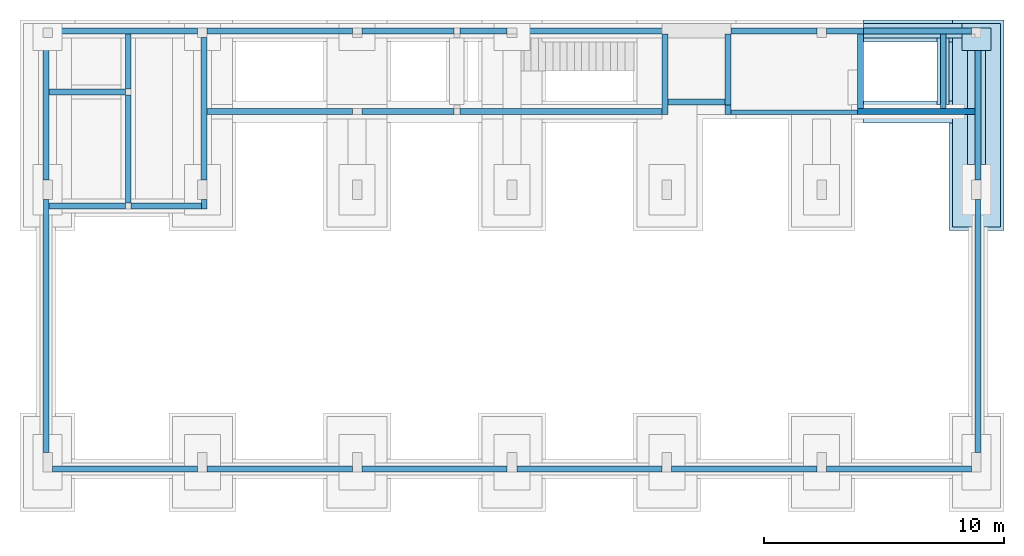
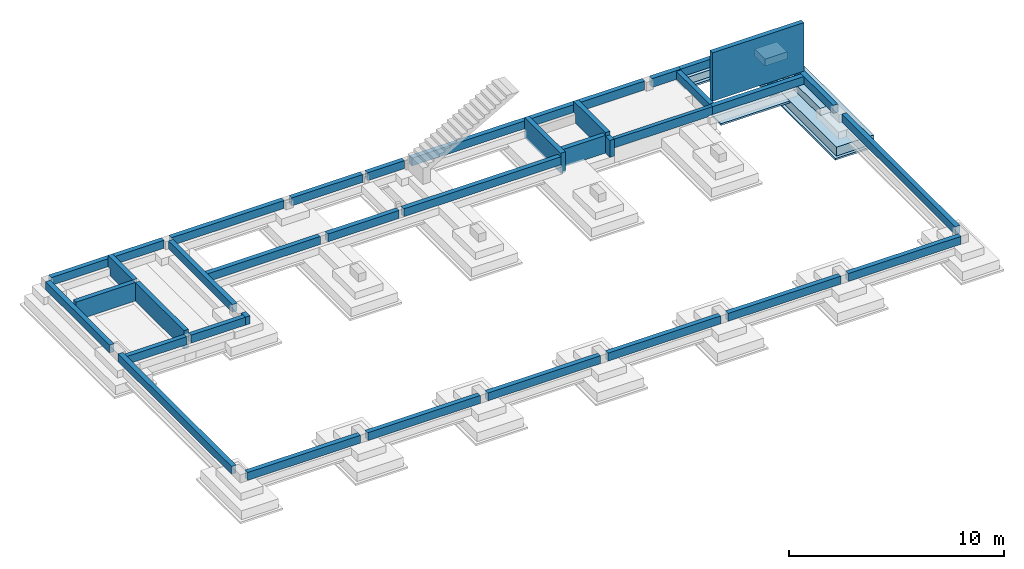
# One storey, part 4 of 6: 36 walls, 8 slabs.
"""IFC2X3 building model written with IfcOpenShell, lengths in centimetres."""

from ifc_helpers import new_model, entity, si_unit, converted_unit, derived_unit, direction, frame, frame_2d, origin, origin_2d_with_axis, place, context, subcontext, project, spatial, polyline, rectangle, extrude, clip, bounded_halfspace, material, layer, layer_set, layer_usage, type_object, element, save


model = new_model("IFC2X3")

# Units and contexts
model_context = context("Model", 3, precision=0.001, world=origin(), true_north=direction((6.12303176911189e-17, 1.0)))
body_context = subcontext(model_context, "Body", "Model", "MODEL_VIEW")
ifc_project = project(units=[si_unit("LENGTHUNIT", "METRE", prefix="CENTI"), si_unit("AREAUNIT", "SQUARE_METRE"), si_unit("VOLUMEUNIT", "CUBIC_METRE"), converted_unit("PLANEANGLEUNIT", "DEGREE", entity("IfcRatioMeasure", 0.0174532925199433), si_unit("PLANEANGLEUNIT", "RADIAN"), dimensions=[0, 0, 0, 0, 0, 0, 0]), si_unit("MASSUNIT", "GRAM", prefix="KILO"), derived_unit("MASSDENSITYUNIT", [(si_unit("MASSUNIT", "GRAM", prefix="KILO"), 1), (si_unit("LENGTHUNIT", "METRE"), -3)]), derived_unit("MOMENTOFINERTIAUNIT", [(si_unit("LENGTHUNIT", "METRE"), 4)]), si_unit("TIMEUNIT", "SECOND"), si_unit("FREQUENCYUNIT", "HERTZ"), si_unit("THERMODYNAMICTEMPERATUREUNIT", "DEGREE_CELSIUS"), derived_unit("THERMALTRANSMITTANCEUNIT", [(si_unit("MASSUNIT", "GRAM", prefix="KILO"), 1), (si_unit("THERMODYNAMICTEMPERATUREUNIT", "KELVIN"), -1), (si_unit("TIMEUNIT", "SECOND"), -3)]), derived_unit("VOLUMETRICFLOWRATEUNIT", [(si_unit("LENGTHUNIT", "METRE"), 3), (si_unit("TIMEUNIT", "SECOND"), -1)]), si_unit("ELECTRICCURRENTUNIT", "AMPERE"), si_unit("ELECTRICVOLTAGEUNIT", "VOLT"), si_unit("POWERUNIT", "WATT"), si_unit("FORCEUNIT", "NEWTON", prefix="KILO"), si_unit("ILLUMINANCEUNIT", "LUX"), si_unit("LUMINOUSFLUXUNIT", "LUMEN"), si_unit("LUMINOUSINTENSITYUNIT", "CANDELA"), derived_unit("USERDEFINED", [(si_unit("MASSUNIT", "GRAM", prefix="KILO"), -1), (si_unit("LENGTHUNIT", "METRE"), -2), (si_unit("TIMEUNIT", "SECOND"), 3), (si_unit("LUMINOUSFLUXUNIT", "LUMEN"), 1)]), derived_unit("LINEARVELOCITYUNIT", [(si_unit("LENGTHUNIT", "METRE"), 1), (si_unit("TIMEUNIT", "SECOND"), -1)]), si_unit("PRESSUREUNIT", "PASCAL"), derived_unit("USERDEFINED", [(si_unit("LENGTHUNIT", "METRE"), -2), (si_unit("MASSUNIT", "GRAM", prefix="KILO"), 1), (si_unit("TIMEUNIT", "SECOND"), -2)]), derived_unit("LINEARFORCEUNIT", [(si_unit("MASSUNIT", "GRAM", prefix="KILO"), 1), (si_unit("LENGTHUNIT", "METRE"), 1), (si_unit("TIMEUNIT", "SECOND"), -2), (si_unit("LENGTHUNIT", "METRE"), -1)]), derived_unit("PLANARFORCEUNIT", [(si_unit("MASSUNIT", "GRAM", prefix="KILO"), 1), (si_unit("LENGTHUNIT", "METRE"), 1), (si_unit("TIMEUNIT", "SECOND"), -2), (si_unit("LENGTHUNIT", "METRE"), -2)])], contexts=[model_context])

# Site, building, storey
site_placement = place(None, origin())
site = spatial("IfcSite", under=ifc_project, at=site_placement, Name="Default", CompositionType="ELEMENT")
building_placement = place(site_placement, origin())
building = spatial("IfcBuilding", under=site, at=building_placement, CompositionType="ELEMENT")
storey_placement = place(building_placement, frame((0.0, 0.0, -115.0)))
storey = spatial("IfcBuildingStorey", under=building, at=storey_placement, Name="Poziom Fundament -1,15", CompositionType="ELEMENT", Elevation=-115.0)

# Slabs
ifc_material_1 = material(Name="_Beton, C25/30")
ifc_layer_1 = layer(ifc_material_1, 50.0)
ifc_layer_set_1 = layer_set([ifc_layer_1], Name="Strop:SF 200 x 847,5 x 50 cm")
ifc_layer_usage_1 = layer_usage(ifc_layer_set_1, "AXIS3", "POSITIVE", 0.0)
slab_type_1 = type_object("IfcSlabType", Name="Strop:SF 200 x 847,5 x 50 cm", PredefinedType="FLOOR", material=ifc_layer_set_1)
slab_1_placement = place(storey_placement, origin())
element("IfcSlab", 1, at=slab_1_placement, inside=storey, type_object=slab_type_1, material=ifc_layer_usage_1, Name="Strop:SF 200 x 847,5 x 50 cm", ObjectType="Strop:SF 200 x 847,5 x 50 cm", PredefinedType="FLOOR", context=body_context, shape_type="SweptSolid", body=[
    extrude(rectangle(XDim=847.500000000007, YDim=199.999999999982, at=origin_2d_with_axis()), frame((955.734885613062, 1698.8774502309, 0.0), z_axis=(0.0, 0.0, -1.0), x_axis=(0.0, 1.0, 0.0)), (0.0, 0.0, 1.0), 50.0),
])
ifc_layer_2 = layer(ifc_material_1, 40.0)
ifc_layer_set_2 = layer_set([ifc_layer_2], Name="Strop:Ława fundamentowa gr. 40cm")
ifc_layer_usage_2 = layer_usage(ifc_layer_set_2, "AXIS3", "POSITIVE", 0.0)
slab_type_2 = type_object("IfcSlabType", Name="Strop:Ława fundamentowa gr. 40cm", PredefinedType="FLOOR", material=ifc_layer_set_2)
slab_2_placement = place(storey_placement, origin())
element("IfcSlab", 2, at=slab_2_placement, inside=storey, type_object=slab_type_2, material=ifc_layer_usage_2, Name="Strop:Ława fundamentowa gr. 40cm", ObjectType="Strop:Ława fundamentowa gr. 40cm", PredefinedType="FLOOR", context=body_context, shape_type="SweptSolid", body=[
    extrude(rectangle(XDim=475.00335249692, YDim=74.9987288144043, at=origin_2d_with_axis()), frame((955.734519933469, 1772.6257552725, 40.0), z_axis=(0.0, 0.0, -1.0), x_axis=(0.0, 1.0, 0.0)), (0.0, 0.0, 1.0), 40.0),
])
ifc_layer_3 = layer(ifc_material_1, 40.0)
ifc_layer_set_3 = layer_set([ifc_layer_3], Name="Strop:SF 112,5 x 120 x 40cm")
ifc_layer_usage_3 = layer_usage(ifc_layer_set_3, "AXIS3", "POSITIVE", 0.0)
slab_type_3 = type_object("IfcSlabType", Name="Strop:SF 112,5 x 120 x 40cm", PredefinedType="FLOOR", material=ifc_layer_set_3)
slab_3_placement = place(storey_placement, origin())
element("IfcSlab", 3, at=slab_3_placement, inside=storey, type_object=slab_type_3, material=ifc_layer_usage_3, Name="Strop:SF 112,5 x 120 x 40cm", ObjectType="Strop:SF 112,5 x 120 x 40cm", PredefinedType="FLOOR", context=body_context, shape_type="SweptSolid", body=[
    extrude(rectangle(XDim=95.0000187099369, YDim=119.998441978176, at=origin_2d_with_axis()), frame((955.734644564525, 2057.62744087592, 40.0), z_axis=(0.0, 0.0, -1.0), x_axis=(0.0, 1.0, 0.0)), (0.0, 0.0, 1.0), 40.0),
])
ifc_layer_usage_4 = layer_usage(ifc_layer_set_2, "AXIS3", "POSITIVE", 0.0)
slab_type_4 = type_object("IfcSlabType", Name="Strop:Ława fundamentowa gr. 40cm", PredefinedType="FLOOR", material=ifc_layer_set_2)
slab_4_placement = place(storey_placement, origin())
element("IfcSlab", 4, at=slab_4_placement, inside=storey, type_object=slab_type_4, material=ifc_layer_usage_4, Name="Strop:Ława fundamentowa gr. 40cm", ObjectType="Strop:Ława fundamentowa gr. 40cm", PredefinedType="FLOOR", context=body_context, shape_type="SweptSolid", body=[
    extrude(rectangle(XDim=60.0000206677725, YDim=410.0, at=origin_2d_with_axis()), frame((690.735423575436, 2092.62743989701, 40.0), z_axis=(0.0, 0.0, -1.0), x_axis=(0.0, 1.0, 0.0)), (0.0, 0.0, 1.0), 40.0),
])
ifc_layer_usage_5 = layer_usage(ifc_layer_set_2, "AXIS3", "POSITIVE", 0.0)
slab_type_5 = type_object("IfcSlabType", Name="Strop:Ława fundamentowa gr. 40cm", PredefinedType="FLOOR", material=ifc_layer_set_2)
slab_5_placement = place(storey_placement, origin())
element("IfcSlab", 5, at=slab_5_placement, inside=storey, type_object=slab_type_5, material=ifc_layer_usage_5, Name="Strop:Ława fundamentowa gr. 40cm", ObjectType="Strop:Ława fundamentowa gr. 40cm", PredefinedType="FLOOR", context=body_context, shape_type="SweptSolid", body=[
    extrude(rectangle(XDim=276.999976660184, YDim=50.0000000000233, at=origin_2d_with_axis()), frame((817.235016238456, 1924.12744123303, 40.0), z_axis=(0.0, 0.0, -1.0), x_axis=(0.0, 1.0, 0.0)), (0.0, 0.0, 1.0), 40.0),
])
ifc_material_2 = material(Name="Beton zacierany")
ifc_layer_4 = layer(ifc_material_2, 10.0)
ifc_layer_set_4 = layer_set([ifc_layer_4], Name="Strop:Chudy beton gr. 10cm")
ifc_layer_usage_6 = layer_usage(ifc_layer_set_4, "AXIS3", "POSITIVE", 0.0)
slab_type_6 = type_object("IfcSlabType", Name="Strop:Chudy beton gr. 10cm", PredefinedType="FLOOR", material=ifc_layer_set_4)
slab_6_placement = place(storey_placement, origin())
element("IfcSlab", 6, at=slab_6_placement, inside=storey, type_object=slab_type_6, material=ifc_layer_usage_6, Name="Strop:Chudy beton gr. 10cm", ObjectType="Strop:Chudy beton gr. 10cm", PredefinedType="FLOOR", context=body_context, shape_type="SweptSolid", body=[
    extrude(rectangle(XDim=877.500000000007, YDim=229.999999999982, at=origin_2d_with_axis()), frame((955.734885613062, 1698.8774502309, -50.0), z_axis=(0.0, 0.0, -1.0), x_axis=(0.0, 1.0, 0.0)), (0.0, 0.0, 1.0), 10.0),
])
ifc_layer_usage_7 = layer_usage(ifc_layer_set_4, "AXIS3", "POSITIVE", 0.0)
slab_type_7 = type_object("IfcSlabType", Name="Strop:Chudy beton gr. 10cm", PredefinedType="FLOOR", material=ifc_layer_set_4)
slab_7_placement = place(storey_placement, origin())
element("IfcSlab", 7, at=slab_7_placement, inside=storey, type_object=slab_type_7, material=ifc_layer_usage_7, Name="Strop:Chudy beton gr. 10cm", ObjectType="Strop:Chudy beton gr. 10cm", PredefinedType="FLOOR", context=body_context, shape_type="SweptSolid", body=[
    extrude(rectangle(XDim=92.4999981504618, YDim=369.999462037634, at=frame_2d((4.33431068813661e-13, -1.13686837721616e-13), x_axis=(1.0, 0.0))), frame((670.735154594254, 2091.37745115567, 0.0), z_axis=(0.0, 0.0, -1.0), x_axis=(0.0, 1.0, 0.0)), (0.0, 0.0, 1.0), 10.0),
])
ifc_layer_usage_8 = layer_usage(ifc_layer_set_4, "AXIS3", "POSITIVE", 0.0)
slab_type_8 = type_object("IfcSlabType", Name="Strop:Chudy beton gr. 10cm", PredefinedType="FLOOR", material=ifc_layer_set_4)
slab_8_placement = place(storey_placement, origin())
element("IfcSlab", 8, at=slab_8_placement, inside=storey, type_object=slab_type_8, material=ifc_layer_usage_8, Name="Strop:Chudy beton gr. 10cm", ObjectType="Strop:Chudy beton gr. 10cm", PredefinedType="FLOOR", context=body_context, shape_type="SweptSolid", body=[
    extrude(rectangle(XDim=92.4999981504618, YDim=369.999462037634, at=frame_2d((4.33431068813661e-13, -1.13686837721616e-13), x_axis=(1.0, 0.0))), frame((670.735154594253, 1754.37745548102, 0.0), z_axis=(0.0, 0.0, -1.0), x_axis=(0.0, 1.0, 0.0)), (0.0, 0.0, 1.0), 10.0),
])

# Walls
ifc_layer_5 = layer(ifc_material_1, 25.0)
ifc_layer_set_5 = layer_set([ifc_layer_5], Name="Ściana podstawowa:Ściana fundamentowa gr. 25cm")
ifc_layer_usage_9 = layer_usage(ifc_layer_set_5, "AXIS2", "NEGATIVE", 12.5)
wall_type_1 = type_object("IfcWallType", Name="Ściana podstawowa:Ściana fundamentowa gr. 25cm", PredefinedType="STANDARD", material=ifc_layer_set_5)
wall_1_placement = place(storey_placement, frame((963.235011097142, 2065.12743152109, 40.0), z_axis=(0.0, 0.0, 1.0), x_axis=(0.0, -1.0, 0.0)))
element("IfcWallStandardCase", 9, at=wall_1_placement, inside=storey, type_object=wall_type_1, material=ifc_layer_usage_9, Name="Ściana podstawowa:Ściana fundamentowa gr. 25cm", ObjectType="Ściana podstawowa:Ściana fundamentowa gr. 25cm", context=body_context, shape_type="SweptSolid", body=[
    extrude(rectangle(XDim=594.999999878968, YDim=25.0000000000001, at=frame_2d((297.499999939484, 5.41788836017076e-14), x_axis=(-1.0, 0.0))), origin(), (0.0, 0.0, 1.0), 45.0),
])
ifc_layer_usage_10 = layer_usage(ifc_layer_set_5, "AXIS2", "NEGATIVE", 12.5)
wall_2_placement = place(storey_placement, frame((935.735011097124, 2092.62745023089, 40.0), z_axis=(0.0, 0.0, 1.0), x_axis=(-1.0, 0.0, 0.0)))
element("IfcWallStandardCase", 10, at=wall_2_placement, inside=storey, type_object=wall_type_1, material=ifc_layer_usage_10, Name="Ściana podstawowa:Ściana fundamentowa gr. 25cm", ObjectType="Ściana podstawowa:Ściana fundamentowa gr. 25cm", context=body_context, shape_type="SweptSolid", body=[
    extrude(rectangle(XDim=449.999587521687, YDim=25.0000000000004, at=frame_2d((224.999793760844, 0.0), x_axis=(-1.0, 0.0))), origin(), (0.0, 0.0, 1.0), 45.0),
])
ifc_layer_usage_11 = layer_usage(ifc_layer_set_5, "AXIS2", "NEGATIVE", 12.5)
wall_3_placement = place(storey_placement, frame((-2289.26498896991, 267.627499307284, 40.0), z_axis=(0.0, 0.0, 1.0), x_axis=(-1.0, 0.0, 0.0)))
element("IfcWallStandardCase", 11, at=wall_3_placement, inside=storey, type_object=wall_type_1, material=ifc_layer_usage_11, Name="Ściana podstawowa:Ściana fundamentowa gr. 25cm", ObjectType="Ściana podstawowa:Ściana fundamentowa gr. 25cm", context=body_context, shape_type="SweptSolid", body=[
    extrude(rectangle(XDim=604.999996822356, YDim=24.9999999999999, at=frame_2d((302.499998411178, -2.30926389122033e-14), x_axis=(-1.0, 0.0))), origin(), (0.0, 0.0, 1.0), 45.0),
])
ifc_layer_usage_12 = layer_usage(ifc_layer_set_5, "AXIS2", "NEGATIVE", 12.5)
wall_4_placement = place(storey_placement, frame((-1644.26499214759, 267.627499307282, 40.0), z_axis=(0.0, 0.0, 1.0), x_axis=(-1.0, 0.0, 0.0)))
element("IfcWallStandardCase", 12, at=wall_4_placement, inside=storey, type_object=wall_type_1, material=ifc_layer_usage_12, Name="Ściana podstawowa:Ściana fundamentowa gr. 25cm", ObjectType="Ściana podstawowa:Ściana fundamentowa gr. 25cm", context=body_context, shape_type="SweptSolid", body=[
    extrude(rectangle(XDim=604.999996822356, YDim=24.9999999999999, at=frame_2d((302.499998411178, -2.30926389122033e-14), x_axis=(-1.0, 0.0))), origin(), (0.0, 0.0, 1.0), 45.0),
])
ifc_layer_usage_13 = layer_usage(ifc_layer_set_5, "AXIS2", "NEGATIVE", 12.5)
wall_5_placement = place(storey_placement, frame((-999.264992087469, 267.62749930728, 40.0), z_axis=(0.0, 0.0, 1.0), x_axis=(-1.0, 0.0, 0.0)))
element("IfcWallStandardCase", 13, at=wall_5_placement, inside=storey, type_object=wall_type_1, material=ifc_layer_usage_13, Name="Ściana podstawowa:Ściana fundamentowa gr. 25cm", ObjectType="Ściana podstawowa:Ściana fundamentowa gr. 25cm", context=body_context, shape_type="SweptSolid", body=[
    extrude(rectangle(XDim=604.999996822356, YDim=24.9999999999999, at=frame_2d((302.499998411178, -2.30926389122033e-14), x_axis=(-1.0, 0.0))), origin(), (0.0, 0.0, 1.0), 45.0),
])
ifc_layer_usage_14 = layer_usage(ifc_layer_set_5, "AXIS2", "NEGATIVE", 12.5)
wall_6_placement = place(storey_placement, frame((-354.264992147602, 267.627499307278, 40.0), z_axis=(0.0, 0.0, 1.0), x_axis=(-1.0, 0.0, 0.0)))
element("IfcWallStandardCase", 14, at=wall_6_placement, inside=storey, type_object=wall_type_1, material=ifc_layer_usage_14, Name="Ściana podstawowa:Ściana fundamentowa gr. 25cm", ObjectType="Ściana podstawowa:Ściana fundamentowa gr. 25cm", context=body_context, shape_type="SweptSolid", body=[
    extrude(rectangle(XDim=604.999996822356, YDim=24.9999999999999, at=frame_2d((302.499998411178, -2.30926389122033e-14), x_axis=(-1.0, 0.0))), origin(), (0.0, 0.0, 1.0), 45.0),
])
ifc_layer_usage_15 = layer_usage(ifc_layer_set_5, "AXIS2", "NEGATIVE", 12.5)
wall_7_placement = place(storey_placement, frame((290.735007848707, 267.627499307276, 40.0), z_axis=(0.0, 0.0, 1.0), x_axis=(-1.0, 0.0, 0.0)))
element("IfcWallStandardCase", 15, at=wall_7_placement, inside=storey, type_object=wall_type_1, material=ifc_layer_usage_15, Name="Ściana podstawowa:Ściana fundamentowa gr. 25cm", ObjectType="Ściana podstawowa:Ściana fundamentowa gr. 25cm", context=body_context, shape_type="SweptSolid", body=[
    extrude(rectangle(XDim=604.999996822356, YDim=24.9999999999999, at=frame_2d((302.499998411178, -2.30926389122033e-14), x_axis=(-1.0, 0.0))), origin(), (0.0, 0.0, 1.0), 45.0),
])
ifc_layer_usage_16 = layer_usage(ifc_layer_set_5, "AXIS2", "NEGATIVE", 12.5)
wall_8_placement = place(storey_placement, frame((935.735007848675, 267.627499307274, 40.0), z_axis=(0.0, 0.0, 1.0), x_axis=(-1.0, 0.0, 0.0)))
element("IfcWallStandardCase", 16, at=wall_8_placement, inside=storey, type_object=wall_type_1, material=ifc_layer_usage_16, Name="Ściana podstawowa:Ściana fundamentowa gr. 25cm", ObjectType="Ściana podstawowa:Ściana fundamentowa gr. 25cm", context=body_context, shape_type="SweptSolid", body=[
    extrude(rectangle(XDim=604.999996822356, YDim=24.9999999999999, at=frame_2d((302.499998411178, -2.30926389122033e-14), x_axis=(-1.0, 0.0))), origin(), (0.0, 0.0, 1.0), 45.0),
])
ifc_layer_usage_17 = layer_usage(ifc_layer_set_5, "AXIS2", "NEGATIVE", 12.5)
wall_9_placement = place(storey_placement, frame((-2261.76510899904, 2065.1274315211, 40.0), z_axis=(0.0, 0.0, 1.0), x_axis=(0.0, -1.0, 0.0)))
element("IfcWallStandardCase", 17, at=wall_9_placement, inside=storey, type_object=wall_type_1, material=ifc_layer_usage_17, Name="Ściana podstawowa:Ściana fundamentowa gr. 25cm", ObjectType="Ściana podstawowa:Ściana fundamentowa gr. 25cm", context=body_context, shape_type="SweptSolid", body=[
    extrude(rectangle(XDim=594.999999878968, YDim=25.0000000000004, at=frame_2d((297.499999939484, 5.41788836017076e-14), x_axis=(-1.0, 0.0))), origin(), (0.0, 0.0, 1.0), 45.0),
])
ifc_layer_usage_18 = layer_usage(ifc_layer_set_5, "AXIS2", "NEGATIVE", 12.5)
wall_10_placement = place(storey_placement, frame((-2921.76511017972, 2065.1274315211, 40.0), z_axis=(0.0, 0.0, 1.0), x_axis=(0.0, -1.0, 0.0)))
element("IfcWallStandardCase", 18, at=wall_10_placement, inside=storey, type_object=wall_type_1, material=ifc_layer_usage_18, Name="Ściana podstawowa:Ściana fundamentowa gr. 25cm", ObjectType="Ściana podstawowa:Ściana fundamentowa gr. 25cm", context=body_context, shape_type="SweptSolid", body=[
    extrude(rectangle(XDim=594.999999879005, YDim=25.0000000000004, at=frame_2d((297.499999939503, 5.41788836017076e-14), x_axis=(-1.0, 0.0))), origin(), (0.0, 0.0, 1.0), 45.0),
])
ifc_layer_usage_19 = layer_usage(ifc_layer_set_5, "AXIS2", "POSITIVE", -12.5)
wall_11_placement = place(storey_placement, frame((-2921.76463038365, 1390.1274316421, 40.0), z_axis=(0.0, 0.0, 1.0), x_axis=(0.0, -1.0, 0.0)))
element("IfcWallStandardCase", 19, at=wall_11_placement, inside=storey, type_object=wall_type_1, material=ifc_layer_usage_19, Name="Ściana podstawowa:Ściana fundamentowa gr. 25cm", ObjectType="Ściana podstawowa:Ściana fundamentowa gr. 25cm", context=body_context, shape_type="SweptSolid", body=[
    extrude(rectangle(XDim=1055.000000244, YDim=25.0000000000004, at=frame_2d((527.500000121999, 0.0), x_axis=(-1.0, 0.0))), origin(), (0.0, 0.0, 1.0), 45.0),
])
ifc_layer_usage_20 = layer_usage(ifc_layer_set_5, "AXIS2", "POSITIVE", -12.5)
wall_12_placement = place(storey_placement, frame((963.235492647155, 1390.12743164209, 40.0), z_axis=(0.0, 0.0, 1.0), x_axis=(0.0, -1.0, 0.0)))
element("IfcWallStandardCase", 20, at=wall_12_placement, inside=storey, type_object=wall_type_1, material=ifc_layer_usage_20, Name="Ściana podstawowa:Ściana fundamentowa gr. 25cm", ObjectType="Ściana podstawowa:Ściana fundamentowa gr. 25cm", context=body_context, shape_type="SweptSolid", body=[
    extrude(rectangle(XDim=1055.000000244, YDim=24.9999999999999, at=frame_2d((527.500000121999, 0.0), x_axis=(-1.0, 0.0))), origin(), (0.0, 0.0, 1.0), 45.0),
])
ifc_layer_usage_21 = layer_usage(ifc_layer_set_5, "AXIS2", "NEGATIVE", 12.5)
wall_13_placement = place(storey_placement, frame((-2289.26510899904, 2092.62743150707, 40.0), z_axis=(0.0, 0.0, 1.0), x_axis=(-1.0, 0.0, 0.0)))
element("IfcWallStandardCase", 21, at=wall_13_placement, inside=storey, type_object=wall_type_1, material=ifc_layer_usage_21, Name="Ściana podstawowa:Ściana fundamentowa gr. 25cm", ObjectType="Ściana podstawowa:Ściana fundamentowa gr. 25cm", context=body_context, shape_type="SweptSolid", body=[
    extrude(rectangle(XDim=604.999997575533, YDim=25.0000000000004, at=frame_2d((302.499998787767, -9.41469124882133e-14), x_axis=(-1.0, 0.0))), origin(), (0.0, 0.0, 1.0), 45.0),
])
ifc_layer_usage_22 = layer_usage(ifc_layer_set_5, "AXIS2", "NEGATIVE", 12.5)
wall_14_placement = place(storey_placement, frame((-1644.26510899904, 2092.62743150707, 40.0), z_axis=(0.0, 0.0, 1.0), x_axis=(-1.0, 0.0, 0.0)))
element("IfcWallStandardCase", 22, at=wall_14_placement, inside=storey, type_object=wall_type_1, material=ifc_layer_usage_22, Name="Ściana podstawowa:Ściana fundamentowa gr. 25cm", ObjectType="Ściana podstawowa:Ściana fundamentowa gr. 25cm", context=body_context, shape_type="SweptSolid", body=[
    extrude(rectangle(XDim=605.000000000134, YDim=25.0000000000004, at=frame_2d((302.500000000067, 1.68753899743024e-14), x_axis=(-1.0, 0.0))), origin(), (0.0, 0.0, 1.0), 45.0),
])
ifc_layer_usage_23 = layer_usage(ifc_layer_set_5, "AXIS2", "NEGATIVE", 12.5)
wall_15_placement = place(storey_placement, frame((-1221.76499418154, 2092.62743150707, 40.0), z_axis=(0.0, 0.0, 1.0), x_axis=(-1.0, 0.0, 0.0)))
element("IfcWallStandardCase", 23, at=wall_15_placement, inside=storey, type_object=wall_type_1, material=ifc_layer_usage_23, Name="Ściana podstawowa:Ściana fundamentowa gr. 25cm", ObjectType="Ściana podstawowa:Ściana fundamentowa gr. 25cm", context=body_context, shape_type="SweptSolid", body=[
    extrude(rectangle(XDim=382.499994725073, YDim=25.0000000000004, at=frame_2d((191.249997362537, 9.05941988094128e-14), x_axis=(-1.0, 0.0))), origin(), (0.0, 0.0, 1.0), 45.0),
])
ifc_layer_usage_24 = layer_usage(ifc_layer_set_5, "AXIS2", "NEGATIVE", 12.5)
wall_16_placement = place(storey_placement, frame((-999.265105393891, 2092.62743150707, 40.0), z_axis=(0.0, 0.0, 1.0), x_axis=(-1.0, 0.0, 0.0)))
element("IfcWallStandardCase", 24, at=wall_16_placement, inside=storey, type_object=wall_type_1, material=ifc_layer_usage_24, Name="Ściana podstawowa:Ściana fundamentowa gr. 25cm", ObjectType="Ściana podstawowa:Ściana fundamentowa gr. 25cm", context=body_context, shape_type="SweptSolid", body=[
    extrude(rectangle(XDim=197.499746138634, YDim=25.0000000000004, at=frame_2d((98.7498730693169, -6.48370246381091e-14), x_axis=(-1.0, 0.0))), origin(), (0.0, 0.0, 1.0), 45.0),
])
ifc_layer_usage_25 = layer_usage(ifc_layer_set_5, "AXIS2", "NEGATIVE", 12.5)
wall_17_placement = place(storey_placement, frame((290.734894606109, 2092.62743150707, 35.0), z_axis=(0.0, 0.0, 1.0), x_axis=(-1.0, 0.0, 0.0)))
element("IfcWallStandardCase", 25, at=wall_17_placement, inside=storey, type_object=wall_type_1, material=ifc_layer_usage_25, Name="Ściana podstawowa:Ściana fundamentowa gr. 25cm", ObjectType="Ściana podstawowa:Ściana fundamentowa gr. 25cm", context=body_context, shape_type="SweptSolid", body=[
    extrude(rectangle(XDim=356.499883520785, YDim=25.0000000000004, at=frame_2d((178.249941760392, 0.0), x_axis=(-1.0, 0.0))), origin(), (0.0, 0.0, 1.0), 50.0),
])
ifc_layer_usage_26 = layer_usage(ifc_layer_set_5, "AXIS2", "NEGATIVE", 12.5)
wall_18_placement = place(storey_placement, frame((-1221.76499418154, 1755.62745200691, 40.0), z_axis=(0.0, 0.0, 1.0), x_axis=(-1.0, 0.0, 0.0)))
element("IfcWallStandardCase", 26, at=wall_18_placement, inside=storey, type_object=wall_type_1, material=ifc_layer_usage_26, Name="Ściana podstawowa:Ściana fundamentowa gr. 25cm", ObjectType="Ściana podstawowa:Ściana fundamentowa gr. 25cm", context=body_context, shape_type="SweptSolid", body=[
    extrude(rectangle(XDim=382.499994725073, YDim=24.9999999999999, at=frame_2d((191.249997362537, -1.77635683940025e-14), x_axis=(-1.0, 0.0))), origin(), (0.0, 0.0, 1.0), 45.0000000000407),
])
ifc_layer_usage_27 = layer_usage(ifc_layer_set_5, "AXIS2", "NEGATIVE", 12.5)
wall_19_placement = place(storey_placement, frame((-354.264987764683, 1755.62745200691, 40.0), z_axis=(0.0, 0.0, 1.0), x_axis=(-1.0, 0.0, 0.0)))
element("IfcWallStandardCase", 27, at=wall_19_placement, inside=storey, type_object=wall_type_1, material=ifc_layer_usage_27, Name="Ściana podstawowa:Ściana fundamentowa gr. 25cm", ObjectType="Ściana podstawowa:Ściana fundamentowa gr. 25cm", context=body_context, shape_type="SweptSolid", body=[
    extrude(rectangle(XDim=842.49998850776, YDim=24.9999999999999, at=frame_2d((421.24999425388, 4.61852778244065e-14), x_axis=(-1.0, 0.0))), origin(), (0.0, 0.0, 1.0), 45.0000000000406),
])
ifc_layer_usage_28 = layer_usage(ifc_layer_set_5, "AXIS2", "NEGATIVE", 12.5)
wall_20_placement = place(storey_placement, frame((950.735011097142, 1755.6274520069, 40.0), z_axis=(0.0, 0.0, 1.0), x_axis=(-1.0, 0.0, 0.0)))
element("IfcWallStandardCase", 28, at=wall_20_placement, inside=storey, type_object=wall_type_1, material=ifc_layer_usage_28, Name="Ściana podstawowa:Ściana fundamentowa gr. 25cm", ObjectType="Ściana podstawowa:Ściana fundamentowa gr. 25cm", context=body_context, shape_type="SweptSolid", body=[
    extrude(rectangle(XDim=489.500014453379, YDim=24.9999999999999, at=frame_2d((244.750007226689, 5.32907051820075e-15), x_axis=(-1.0, 0.0))), origin(), (0.0, 0.0, 1.0), 45.0000000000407),
])
ifc_layer_usage_29 = layer_usage(ifc_layer_set_5, "AXIS2", "NEGATIVE", 12.5)
wall_21_placement = place(storey_placement, frame((-341.764987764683, 1743.12743105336, -10.0), z_axis=(0.0, 0.0, 1.0), x_axis=(0.0, 1.0, 0.0)))
element("IfcWallStandardCase", 29, at=wall_21_placement, inside=storey, type_object=wall_type_1, material=ifc_layer_usage_29, Name="Ściana podstawowa:Ściana fundamentowa gr. 25cm", ObjectType="Ściana podstawowa:Ściana fundamentowa gr. 25cm", context=body_context, shape_type="SweptSolid", body=[
    extrude(rectangle(XDim=337.000000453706, YDim=24.9999999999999, at=frame_2d((168.500000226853, -1.77635683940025e-15), x_axis=(-1.0, 0.0))), origin(), (0.0, 0.0, 1.0), 115.0),
])
ifc_layer_usage_30 = layer_usage(ifc_layer_set_5, "AXIS2", "NEGATIVE", 12.5)
wall_22_placement = place(storey_placement, frame((-78.2649889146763, 1743.12743105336, -10.0), z_axis=(0.0, 0.0, 1.0), x_axis=(0.0, 1.0, 0.0)))
element("IfcWallStandardCase", 30, at=wall_22_placement, inside=storey, type_object=wall_type_1, material=ifc_layer_usage_30, Name="Ściana podstawowa:Ściana fundamentowa gr. 25cm", ObjectType="Ściana podstawowa:Ściana fundamentowa gr. 25cm", context=body_context, shape_type="Clipping", body=[
    clip(clip(clip(clip(extrude(rectangle(XDim=337.000000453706, YDim=25.0, at=frame_2d((168.500000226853, -1.77635683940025e-15), x_axis=(-1.0, 0.0))), origin(), (0.0, 0.0, 1.0), 115.0), bounded_halfspace(frame((319.500019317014, -12.5, 50.0), z_axis=(0.0, 0.0, 1.0), x_axis=(0.0, -1.0, 0.0)), True, frame((319.500019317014, -12.5, 50.0), z_axis=(0.0, 0.0, 1.0), x_axis=(0.0, -1.0, 0.0)), polyline([(0.0, 0.0), (0.0, 17.499981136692), (-25.0, 17.4999811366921), (-25.0, 0.0), (0.0, 0.0)]))), bounded_halfspace(frame((319.500019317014, 12.4999999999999, 50.0), z_axis=(-1.0, 0.0, 0.0), x_axis=(0.0, 0.0, 1.0)), True, frame((319.500019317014, 12.4999999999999, 50.0), z_axis=(-1.0, 0.0, 0.0), x_axis=(0.0, 0.0, 1.0)), polyline([(0.0, 0.0), (-50.0, 0.0), (-50.0, -25.0), (0.0, -25.0), (0.0, 0.0)]))), bounded_halfspace(frame((40.5647614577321, -12.4999999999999, 95.0), z_axis=(0.0, 0.0, -1.0), x_axis=(-1.0, 0.0, 0.0)), True, frame((40.5647614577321, -12.4999999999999, 95.0), z_axis=(0.0, 0.0, -1.0), x_axis=(-1.0, 0.0, 0.0)), polyline([(0.0, 0.0), (15.5647405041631, 0.0), (40.5647614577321, 0.0), (40.5647614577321, 25.0), (0.0, 25.0), (0.0, 0.0)]))), bounded_halfspace(frame((40.5647614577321, 12.5000000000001, 95.0), z_axis=(1.0, 0.0, 0.0), x_axis=(0.0, 0.0, 1.0)), True, frame((40.5647614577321, 12.5000000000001, 95.0), z_axis=(1.0, 0.0, 0.0), x_axis=(0.0, 0.0, 1.0)), polyline([(0.0, 0.0), (20.0, 0.0), (20.0, 25.0), (0.0, 25.0), (0.0, 0.0)]))),
])
ifc_layer_usage_31 = layer_usage(ifc_layer_set_5, "AXIS2", "NEGATIVE", 12.5)
wall_23_placement = place(storey_placement, frame((-329.264987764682, 1796.1274318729, -10.0)))
element("IfcWallStandardCase", 31, at=wall_23_placement, inside=storey, type_object=wall_type_1, material=ifc_layer_usage_31, Name="Ściana podstawowa:Ściana fundamentowa gr. 25cm", ObjectType="Ściana podstawowa:Ściana fundamentowa gr. 25cm", context=body_context, shape_type="SweptSolid", body=[
    extrude(rectangle(XDim=238.499998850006, YDim=24.9999999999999, at=frame_2d((119.249999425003, -9.05941988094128e-14), x_axis=(-1.0, 0.0))), origin(), (0.0, 0.0, 1.0), 100.0),
])
ifc_layer_usage_32 = layer_usage(ifc_layer_set_5, "AXIS2", "NEGATIVE", 12.5)
wall_24_placement = place(storey_placement, frame((-1644.26500681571, 1755.62745200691, 40.0), z_axis=(0.0, 0.0, 1.0), x_axis=(-1.0, 0.0, 0.0)))
element("IfcWallStandardCase", 32, at=wall_24_placement, inside=storey, type_object=wall_type_1, material=ifc_layer_usage_32, Name="Ściana podstawowa:Ściana fundamentowa gr. 25cm", ObjectType="Ściana podstawowa:Ściana fundamentowa gr. 25cm", context=body_context, shape_type="SweptSolid", body=[
    extrude(rectangle(XDim=605.000102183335, YDim=24.9999999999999, at=frame_2d((302.500051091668, 1.68753899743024e-14), x_axis=(-1.0, 0.0))), origin(), (0.0, 0.0, 1.0), 45.0000000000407),
])
ifc_layer_usage_33 = layer_usage(ifc_layer_set_5, "AXIS2", "NEGATIVE", 12.5)
wall_25_placement = place(storey_placement, frame((-65.7649889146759, 2092.62743150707, 40.0), z_axis=(0.0, 0.0, 1.0), x_axis=(-1.0, 0.0, 0.0)))
element("IfcWallStandardCase", 33, at=wall_25_placement, inside=storey, type_object=wall_type_1, material=ifc_layer_usage_33, Name="Ściana podstawowa:Ściana fundamentowa gr. 25cm", ObjectType="Ściana podstawowa:Ściana fundamentowa gr. 25cm", context=body_context, shape_type="SweptSolid", body=[
    extrude(rectangle(XDim=893.500116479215, YDim=25.0000000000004, at=frame_2d((446.750058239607, 0.0), x_axis=(-1.0, 0.0))), origin(), (0.0, 0.0, 1.0), 45.0),
])
ifc_layer_usage_34 = layer_usage(ifc_layer_set_5, "AXIS2", "NEGATIVE", 12.5)
wall_26_placement = place(storey_placement, frame((485.735423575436, 2092.62745023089, 35.0), z_axis=(0.0, 0.0, 1.0), x_axis=(-1.0, 0.0, 0.0)))
element("IfcWallStandardCase", 34, at=wall_26_placement, inside=storey, type_object=wall_type_1, material=ifc_layer_usage_34, Name="Ściana podstawowa:Ściana fundamentowa gr. 25cm", ObjectType="Ściana podstawowa:Ściana fundamentowa gr. 25cm", context=body_context, shape_type="SweptSolid", body=[
    extrude(rectangle(XDim=155.000412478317, YDim=25.0000000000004, at=frame_2d((77.5002062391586, 0.0), x_axis=(-1.0, 0.0))), origin(), (0.0, 0.0, 1.0), 50.0),
])
ifc_layer_6 = layer(ifc_material_1, 24.0)
ifc_layer_set_6 = layer_set([ifc_layer_6], Name="Ściana podstawowa:Ściana fundamentowa - 24cm")
ifc_layer_usage_35 = layer_usage(ifc_layer_set_6, "AXIS2", "NEGATIVE", 12.0)
wall_type_2 = type_object("IfcWallType", Name="Ściana podstawowa:Ściana fundamentowa - 24cm", PredefinedType="STANDARD", material=ifc_layer_set_6)
wall_27_placement = place(storey_placement, frame((817.234996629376, 2080.12745061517, 40.0), z_axis=(0.0, 0.0, 1.0), x_axis=(0.0, -1.0, 0.0)))
element("IfcWallStandardCase", 35, at=wall_27_placement, inside=storey, type_object=wall_type_2, material=ifc_layer_usage_35, Name="Ściana podstawowa:Ściana fundamentowa - 24cm", ObjectType="Ściana podstawowa:Ściana fundamentowa - 24cm", context=body_context, shape_type="SweptSolid", body=[
    extrude(rectangle(XDim=312.000018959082, YDim=24.0, at=frame_2d((156.000009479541, 0.0), x_axis=(-1.0, 0.0))), origin(), (0.0, 0.0, 1.0), 40.0),
])
ifc_layer_usage_36 = layer_usage(ifc_layer_set_6, "AXIS2", "NEGATIVE", 12.0)
wall_28_placement = place(storey_placement, frame((473.234996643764, 2080.12745023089, 35.0), z_axis=(0.0, 0.0, 1.0), x_axis=(0.0, -1.0, 0.0)))
element("IfcWallStandardCase", 36, at=wall_28_placement, inside=storey, type_object=wall_type_2, material=ifc_layer_usage_36, Name="Ściana podstawowa:Ściana fundamentowa - 24cm", ObjectType="Ściana podstawowa:Ściana fundamentowa - 24cm", context=body_context, shape_type="Clipping", body=[
    clip(clip(extrude(rectangle(XDim=312.000018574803, YDim=24.0, at=frame_2d((156.000009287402, -6.21724893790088e-15), x_axis=(-1.0, 0.0))), origin(), (0.0, 0.0, 1.0), 45.0), bounded_halfspace(frame((294.499995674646, -12.0, 5.0), z_axis=(0.0, 0.0, 1.0), x_axis=(0.0, 1.0, 0.0)), True, frame((294.499995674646, -12.0, 5.0), z_axis=(0.0, 0.0, 1.0), x_axis=(0.0, 1.0, 0.0)), polyline([(0.0, 0.0), (0.0, -17.5000229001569), (24.0, -17.5000229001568), (24.0, 0.0), (0.0, 0.0)]))), bounded_halfspace(frame((294.499995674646, 12.0, 5.0), z_axis=(-1.0, 0.0, 0.0), x_axis=(0.0, 0.0, 1.0)), True, frame((294.499995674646, 12.0, 5.0), z_axis=(-1.0, 0.0, 0.0), x_axis=(0.0, 0.0, 1.0)), polyline([(0.0, 0.0), (-5.0, 0.0), (-5.0, -24.0), (0.0, -24.0), (0.0, 0.0)]))),
])
ifc_layer_usage_37 = layer_usage(ifc_layer_set_6, "AXIS2", "NEGATIVE", 12.0)
wall_29_placement = place(storey_placement, frame((-2578.26510771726, 2080.12745206, 0.0), z_axis=(0.0, 0.0, 1.0), x_axis=(0.0, -1.0, 0.0)))
element("IfcWallStandardCase", 37, at=wall_29_placement, inside=storey, type_object=wall_type_2, material=ifc_layer_usage_37, Name="Ściana podstawowa:Ściana fundamentowa - 24cm", ObjectType="Ściana podstawowa:Ściana fundamentowa - 24cm", context=body_context, shape_type="Clipping", body=[
    clip(clip(extrude(rectangle(XDim=230.599999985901, YDim=23.9999999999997, at=frame_2d((115.299999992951, -2.75335310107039e-14), x_axis=(-1.0, 0.0))), origin(), (0.0, 0.0, 1.0), 105.0), bounded_halfspace(frame((17.5000016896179, 12.0, 40.0), z_axis=(0.0, 0.0, 1.0), x_axis=(0.0, 1.0, 0.0)), True, frame((17.5000016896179, 12.0, 40.0), z_axis=(0.0, 0.0, 1.0), x_axis=(0.0, 1.0, 0.0)), polyline([(0.0, 0.0), (0.0, 17.5000016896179), (-24.0, 17.5000016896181), (-24.0, 0.0), (0.0, 0.0)]))), bounded_halfspace(frame((17.5000016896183, -12.0, 40.0), z_axis=(1.0, 0.0, 0.0), x_axis=(0.0, 0.0, 1.0)), True, frame((17.5000016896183, -12.0, 40.0), z_axis=(1.0, 0.0, 0.0), x_axis=(0.0, 0.0, 1.0)), polyline([(0.0, 0.0), (-40.0, 0.0), (-40.0, -24.0), (0.0, -24.0), (0.0, 0.0)]))),
])
ifc_layer_usage_38 = layer_usage(ifc_layer_set_6, "AXIS2", "NEGATIVE", 12.0)
wall_30_placement = place(storey_placement, frame((-2578.26510771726, 1825.5274520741, 0.0), z_axis=(0.0, 0.0, 1.0), x_axis=(0.0, -1.0, 0.0)))
element("IfcWallStandardCase", 38, at=wall_30_placement, inside=storey, type_object=wall_type_2, material=ifc_layer_usage_38, Name="Ściana podstawowa:Ściana fundamentowa - 24cm", ObjectType="Ściana podstawowa:Ściana fundamentowa - 24cm", context=body_context, shape_type="SweptSolid", body=[
    extrude(rectangle(XDim=451.000000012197, YDim=23.9999999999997, at=frame_2d((225.500000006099, -6.30606677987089e-14), x_axis=(-1.0, 0.0))), origin(), (0.0, 0.0, 1.0), 105.0),
])
ifc_layer_usage_39 = layer_usage(ifc_layer_set_6, "AXIS2", "POSITIVE", -12.0)
wall_31_placement = place(storey_placement, frame((-2590.26510771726, 1362.5274520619, 40.0), z_axis=(0.0, 0.0, 1.0), x_axis=(-1.0, 0.0, 0.0)))
element("IfcWallStandardCase", 39, at=wall_31_placement, inside=storey, type_object=wall_type_2, material=ifc_layer_usage_39, Name="Ściana podstawowa:Ściana fundamentowa - 24cm", ObjectType="Ściana podstawowa:Ściana fundamentowa - 24cm", context=body_context, shape_type="SweptSolid", body=[
    extrude(rectangle(XDim=318.999522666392, YDim=24.0000000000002, at=frame_2d((159.499761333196, 0.0), x_axis=(-1.0, 0.0))), origin(), (0.0, 0.0, 1.0), 45.0000000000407),
])
ifc_layer_usage_40 = layer_usage(ifc_layer_set_6, "AXIS2", "NEGATIVE", 12.0)
wall_32_placement = place(storey_placement, frame((-2566.26510771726, 1362.5274520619, 40.0)))
element("IfcWallStandardCase", 40, at=wall_32_placement, inside=storey, type_object=wall_type_2, material=ifc_layer_usage_40, Name="Ściana podstawowa:Ściana fundamentowa - 24cm", ObjectType="Ściana podstawowa:Ściana fundamentowa - 24cm", context=body_context, shape_type="SweptSolid", body=[
    extrude(rectangle(XDim=292.999998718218, YDim=24.0000000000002, at=frame_2d((146.499999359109, -4.08562073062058e-14), x_axis=(-1.0, 0.0))), origin(), (0.0, 0.0, 1.0), 45.0000000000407),
])
ifc_layer_usage_41 = layer_usage(ifc_layer_set_6, "AXIS2", "POSITIVE", -12.0)
wall_33_placement = place(storey_placement, frame((-2261.26510899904, 1350.5274520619, 40.0), z_axis=(0.0, 0.0, 1.0), x_axis=(0.0, 1.0, 0.0)))
element("IfcWallStandardCase", 41, at=wall_33_placement, inside=storey, type_object=wall_type_2, material=ifc_layer_usage_41, Name="Ściana podstawowa:Ściana fundamentowa - 24cm", ObjectType="Ściana podstawowa:Ściana fundamentowa - 24cm", context=body_context, shape_type="SweptSolid", body=[
    extrude(rectangle(XDim=39.5999794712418, YDim=23.9999999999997, at=frame_2d((19.7999897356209, 0.0), x_axis=(-1.0, 0.0))), origin(), (0.0, 0.0, 1.0), 45.0000000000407),
])
ifc_layer_usage_42 = layer_usage(ifc_layer_set_6, "AXIS2", "NEGATIVE", 12.0)
wall_34_placement = place(storey_placement, frame((-2909.26511017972, 1837.5274520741, 0.0)))
element("IfcWallStandardCase", 42, at=wall_34_placement, inside=storey, type_object=wall_type_2, material=ifc_layer_usage_42, Name="Ściana podstawowa:Ściana fundamentowa - 24cm", ObjectType="Ściana podstawowa:Ściana fundamentowa - 24cm", context=body_context, shape_type="Clipping", body=[
    clip(clip(extrude(rectangle(XDim=319.000002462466, YDim=24.0000000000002, at=frame_2d((159.500001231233, -9.85878045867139e-14), x_axis=(-1.0, 0.0))), origin(), (0.0, 0.0, 1.0), 105.0), bounded_halfspace(frame((32.4988532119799, 12.0, 40.0), z_axis=(0.0, 0.0, 1.0), x_axis=(0.0, -1.0, 0.0)), True, frame((32.4988532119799, 12.0, 40.0), z_axis=(0.0, 0.0, 1.0), x_axis=(0.0, -1.0, 0.0)), polyline([(0.0, 0.0), (0.0, -32.4988532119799), (24.0, -32.49885321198), (24.0, 0.0), (0.0, 0.0)]))), bounded_halfspace(frame((32.4988532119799, -12.0, 40.0), z_axis=(1.0, 0.0, 0.0), x_axis=(0.0, 0.0, 1.0)), True, frame((32.4988532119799, -12.0, 40.0), z_axis=(1.0, 0.0, 0.0), x_axis=(0.0, 0.0, 1.0)), polyline([(0.0, 0.0), (-40.0, 0.0), (-40.0, -24.0), (0.0, -24.0), (0.0, 0.0)]))),
])
ifc_material_3 = material(Name="_Beton C30/37")
ifc_layer_7 = layer(ifc_material_3, 25.0)
ifc_layer_set_7 = layer_set([ifc_layer_7], Name="Ściana podstawowa:Ściana żelbetowa gr. 25cm")
ifc_layer_usage_43 = layer_usage(ifc_layer_set_7, "AXIS2", "NEGATIVE", 12.5)
wall_type_3 = type_object("IfcWallType", Name="Ściana podstawowa:Ściana żelbetowa gr. 25cm", PredefinedType="STANDARD", material=ifc_layer_set_7)
wall_35_placement = place(storey_placement, frame((950.734897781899, 1755.62745205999, 115.0), z_axis=(0.0, 0.0, 1.0), x_axis=(-1.0, 0.0, 0.0)))
element("IfcWallStandardCase", 43, at=wall_35_placement, inside=storey, type_object=wall_type_3, material=ifc_layer_usage_43, Name="Ściana podstawowa:Ściana żelbetowa gr. 25cm", ObjectType="Ściana podstawowa:Ściana żelbetowa gr. 25cm", context=body_context, shape_type="SweptSolid", body=[
    extrude(rectangle(XDim=489.500018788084, YDim=24.9999999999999, at=frame_2d((244.750009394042, -1.59872115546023e-14), x_axis=(-1.0, 0.0))), origin(), (0.0, 0.0, 1.0), 274.999999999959),
])
ifc_layer_8 = layer(ifc_material_1, 20.5)
ifc_layer_set_8 = layer_set([ifc_layer_8], Name="Ściana podstawowa:Ściana fundamentowa - 20,5cm")
ifc_layer_usage_44 = layer_usage(ifc_layer_set_8, "AXIS2", "NEGATIVE", 10.25)
wall_type_4 = type_object("IfcWallType", Name="Ściana podstawowa:Ściana fundamentowa - 20,5cm", PredefinedType="STANDARD", material=ifc_layer_set_8)
wall_36_placement = place(storey_placement, frame((-65.7649889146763, 1753.3774316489, 35.0)))
element("IfcWallStandardCase", 44, at=wall_36_placement, inside=storey, type_object=wall_type_4, material=ifc_layer_usage_44, Name="Ściana podstawowa:Ściana fundamentowa - 20,5cm", ObjectType="Ściana podstawowa:Ściana fundamentowa - 20,5cm", context=body_context, shape_type="Clipping", body=[
    clip(clip(extrude(rectangle(XDim=526.99998555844, YDim=20.5000000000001, at=frame_2d((263.49999277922, 2.22044604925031e-14), x_axis=(-1.0, 0.0))), origin(), (0.0, 0.0, 1.0), 50.0000000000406), bounded_halfspace(frame((501.499991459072, -10.2500000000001, 5.0)), True, frame((501.499991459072, -10.2500000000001, 5.0)), polyline([(0.0, 0.0), (25.4999940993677, 0.0), (25.4999940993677, 20.5000000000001), (0.0, 20.5000000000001), (0.0, 0.0)]))), bounded_halfspace(frame((501.499991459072, 10.2500000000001, 5.0), z_axis=(-1.0, 0.0, 0.0), x_axis=(0.0, 0.0, 1.0)), True, frame((501.499991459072, 10.2500000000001, 5.0), z_axis=(-1.0, 0.0, 0.0), x_axis=(0.0, 0.0, 1.0)), polyline([(0.0, 0.0), (-5.0, 0.0), (-5.0, -20.5000000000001), (0.0, -20.5000000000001), (0.0, 0.0)]))),
])

save(model, "model.ifc")
